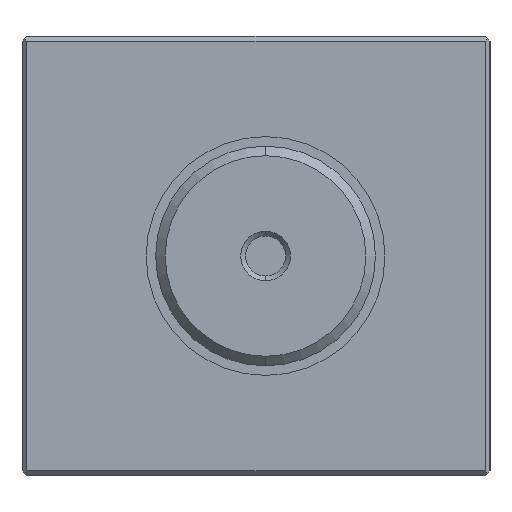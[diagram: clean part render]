
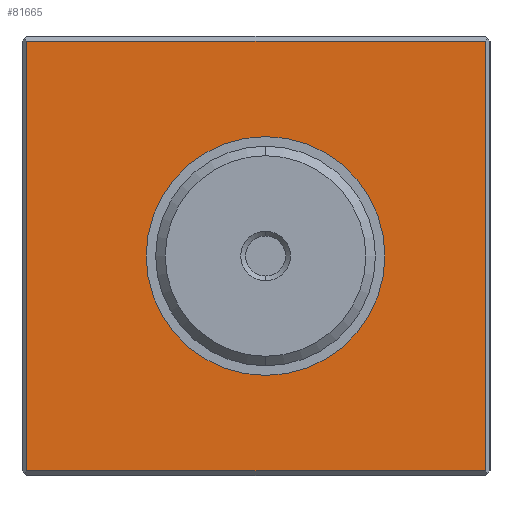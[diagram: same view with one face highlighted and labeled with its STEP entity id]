
A CAD part, left-side view. The second image highlights one B-rep face of the part: STEP entity #81665.
In plain terms, the highlighted planar face has unit normal (-1, 0, 0).
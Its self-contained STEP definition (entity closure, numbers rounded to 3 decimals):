
#3776 = EDGE_CURVE ( 'NONE', #20511, #20392, #25497, .T. ) ;
#3778 = EDGE_CURVE ( 'NONE', #69623, #69199, #25499, .T. ) ;
#3781 = EDGE_CURVE ( 'NONE', #69697, #69623, #25502, .T. ) ;
#3784 = EDGE_CURVE ( 'NONE', #69206, #69697, #25504, .T. ) ;
#3788 = EDGE_CURVE ( 'NONE', #69199, #69206, #25501, .T. ) ;
#14429 = ORIENTED_EDGE ( 'NONE', *, *, #3788, .T. ) ;
#14430 = ORIENTED_EDGE ( 'NONE', *, *, #3784, .T. ) ;
#14431 = ORIENTED_EDGE ( 'NONE', *, *, #3781, .T. ) ;
#14432 = ORIENTED_EDGE ( 'NONE', *, *, #3778, .T. ) ;
#14433 = ORIENTED_EDGE ( 'NONE', *, *, #3776, .F. ) ;
#14434 = ORIENTED_EDGE ( 'NONE', *, *, #39082, .F. ) ;
#16128 = AXIS2_PLACEMENT_3D ( 'NONE', #26839, #26840, #26841 ) ;
#20392 = VERTEX_POINT ( 'NONE', #35914 ) ;
#20511 = VERTEX_POINT ( 'NONE', #35994 ) ;
#25497 = CIRCLE ( 'NONE', #16128, 12.5 ) ;
#25499 = LINE ( 'NONE', #26837, #25503 ) ;
#25501 = LINE ( 'NONE', #26844, #25509 ) ;
#25502 = LINE ( 'NONE', #26834, #25505 ) ;
#25503 = VECTOR ( 'NONE', #26838, 1000. ) ;
#25504 = LINE ( 'NONE', #26842, #25507 ) ;
#25505 = VECTOR ( 'NONE', #26836, 1000. ) ;
#25507 = VECTOR ( 'NONE', #26845, 1000. ) ;
#25509 = VECTOR ( 'NONE', #26843, 1000. ) ;
#26834 = CARTESIAN_POINT ( 'NONE',  ( 0., 25., 22.5 ) ) ;
#26836 = DIRECTION ( 'NONE',  ( 0., 1., 0. ) ) ;
#26837 = CARTESIAN_POINT ( 'NONE',  ( 0., 24.5, -23. ) ) ;
#26838 = DIRECTION ( 'NONE',  ( 0., 0., -1. ) ) ;
#26839 = CARTESIAN_POINT ( 'NONE',  ( 0., -0.5, 0. ) ) ;
#26840 = DIRECTION ( 'NONE',  ( -1., 0., 0. ) ) ;
#26841 = DIRECTION ( 'NONE',  ( 0., -1., 0. ) ) ;
#26842 = CARTESIAN_POINT ( 'NONE',  ( 0., -23.5, -23. ) ) ;
#26843 = DIRECTION ( 'NONE',  ( 0., -1., 0. ) ) ;
#26844 = CARTESIAN_POINT ( 'NONE',  ( 0., 25., -22.5 ) ) ;
#26845 = DIRECTION ( 'NONE',  ( 0., 0., 1. ) ) ;
#35914 = CARTESIAN_POINT ( 'NONE',  ( 0., 12., 0. ) ) ;
#35994 = CARTESIAN_POINT ( 'NONE',  ( 0., -13., 0. ) ) ;
#37532 = AXIS2_PLACEMENT_3D ( 'NONE', #47013, #47014, #47015 ) ;
#39082 = EDGE_CURVE ( 'NONE', #20392, #20511, #44709, .T. ) ;
#41782 = AXIS2_PLACEMENT_3D ( 'NONE', #44124, #44125, #44126 ) ;
#44124 = CARTESIAN_POINT ( 'NONE',  ( 0., -0.5, 0. ) ) ;
#44125 = DIRECTION ( 'NONE',  ( -1., 0., 0. ) ) ;
#44126 = DIRECTION ( 'NONE',  ( 0., -1., 0. ) ) ;
#44709 = CIRCLE ( 'NONE', #41782, 12.5 ) ;
#47006 = PLANE ( 'NONE',  #37532 ) ;
#47013 = CARTESIAN_POINT ( 'NONE',  ( 0., 25., -23. ) ) ;
#47014 = DIRECTION ( 'NONE',  ( -1., 0., 0. ) ) ;
#47015 = DIRECTION ( 'NONE',  ( 0., -1., 0. ) ) ;
#47817 = FACE_OUTER_BOUND ( 'NONE', #77996, .T. ) ;
#47821 = FACE_BOUND ( 'NONE', #78099, .T. ) ;
#50315 = CARTESIAN_POINT ( 'NONE',  ( 0., 24.5, -22.5 ) ) ;
#50320 = CARTESIAN_POINT ( 'NONE',  ( 0., -23.5, -22.5 ) ) ;
#50649 = CARTESIAN_POINT ( 'NONE',  ( 0., 24.5, 22.5 ) ) ;
#50721 = CARTESIAN_POINT ( 'NONE',  ( 0., -23.5, 22.5 ) ) ;
#69199 = VERTEX_POINT ( 'NONE', #50315 ) ;
#69206 = VERTEX_POINT ( 'NONE', #50320 ) ;
#69623 = VERTEX_POINT ( 'NONE', #50649 ) ;
#69697 = VERTEX_POINT ( 'NONE', #50721 ) ;
#77996 = EDGE_LOOP ( 'NONE', ( #14429, #14430, #14431, #14432 ) ) ;
#78099 = EDGE_LOOP ( 'NONE', ( #14433, #14434 ) ) ;
#81665 = ADVANCED_FACE ( 'NONE', ( #47817, #47821 ), #47006, .T. ) ;
